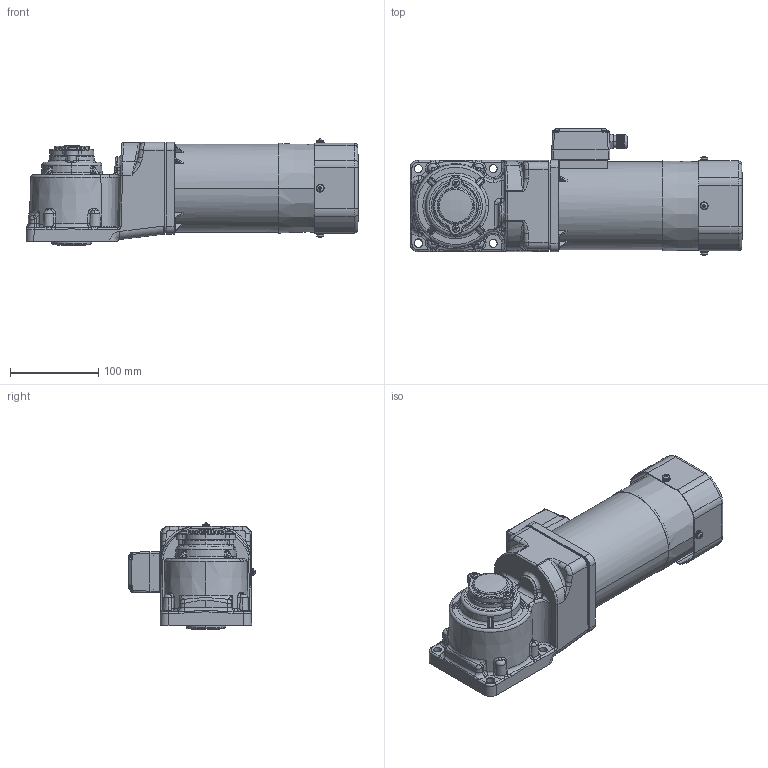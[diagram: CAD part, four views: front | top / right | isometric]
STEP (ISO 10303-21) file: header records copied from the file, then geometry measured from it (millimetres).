
FILE_DESCRIPTION (( 'STEP AP203' ), '1' );
FILE_NAME ('6RK120GU-CMFT(6GU3RC-180RC)ÐÂ.STEP', '2023-07-07T04:47:51', ( 'Windows User' ), ( 'P R C' ), 'SwSTEP 2.0', 'SolidWorks 2019', '' );
FILE_SCHEMA (( 'CONFIG_CONTROL_DESIGN' ));
Length unit declared in the file: millimetre
Products named in the file (5): 100RC____________________^6RK120GU-CMFT(6GU3RC-180RC)ÐÂ(2)_6RK120GU-CMFT(6GU3RC-180RC)ÐÂ; 6RK120GU-CMFT(6GU3RC-180RC)陔; 6RK120GU-CMFT(6GU3RC-180RC)陔(2)^6RK120GU-CMFT(6GU3RC-180RC)陔; ^_6RK120GU-CMFT(6GU3RC-180RC)陔(2)_6RK120GU-CMFT(6GU3RC-180RC)陔; ^6RK120GU-CMFT(6GU3RC-180RC)陔(2)_6RK120GU-CMFT(6GU3RC-180RC)陔
Assembly tree (4 placements, depth 4):
  6RK120GU-CMFT(6GU3RC-180RC)陔
    6RK120GU-CMFT(6GU3RC-180RC)陔(2)^6RK120GU-CMFT(6GU3RC-180RC)陔
      ^6RK120GU-CMFT(6GU3RC-180RC)陔(2)_6RK120GU-CMFT(6GU3RC-180RC)陔
        ^_6RK120GU-CMFT(6GU3RC-180RC)陔(2)_6RK120GU-CMFT(6GU3RC-180RC)陔
      100RC____________________^6RK120GU-CMFT(6GU3RC-180RC)ÐÂ(2)_6RK120GU-CMFT(6GU3RC-180RC)ÐÂ
Bounding box: 376.98 x 143.46 x 120.46 mm (x, y, z)
Volume: 2823798.9 mm3; surface area: 317266.5 mm2
Topology: 30 solids, 40 shells, 2375 faces, 5660 edges, 3384 vertices
Faces by surface type: cylinder 802, plane 567, cone 462, bspline 372, torus 124, sphere 48
Entity records: 94293 total; most frequent: CARTESIAN_POINT 42690, ORIENTED_EDGE 11202, DIRECTION 10075, EDGE_CURVE 5601, AXIS2_PLACEMENT_3D 4009, VERTEX_POINT 3380, EDGE_LOOP 2519, ADVANCED_FACE 2375
